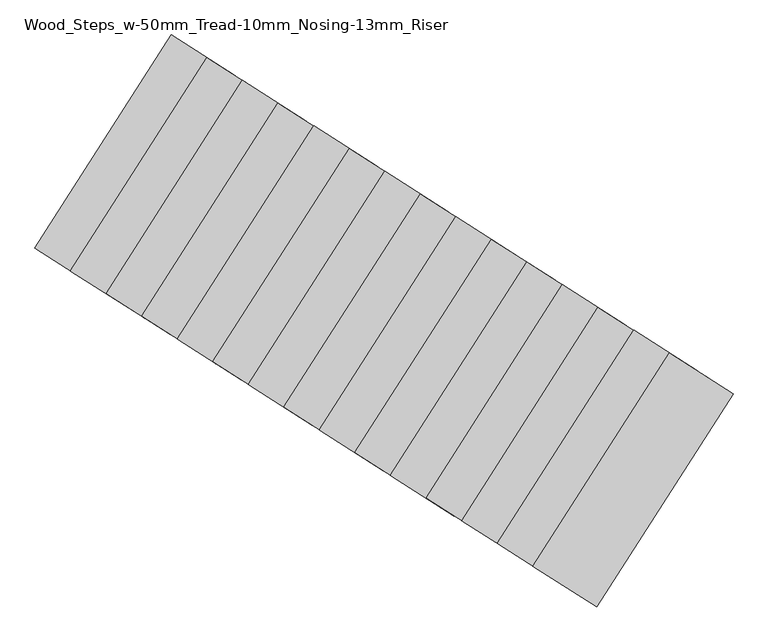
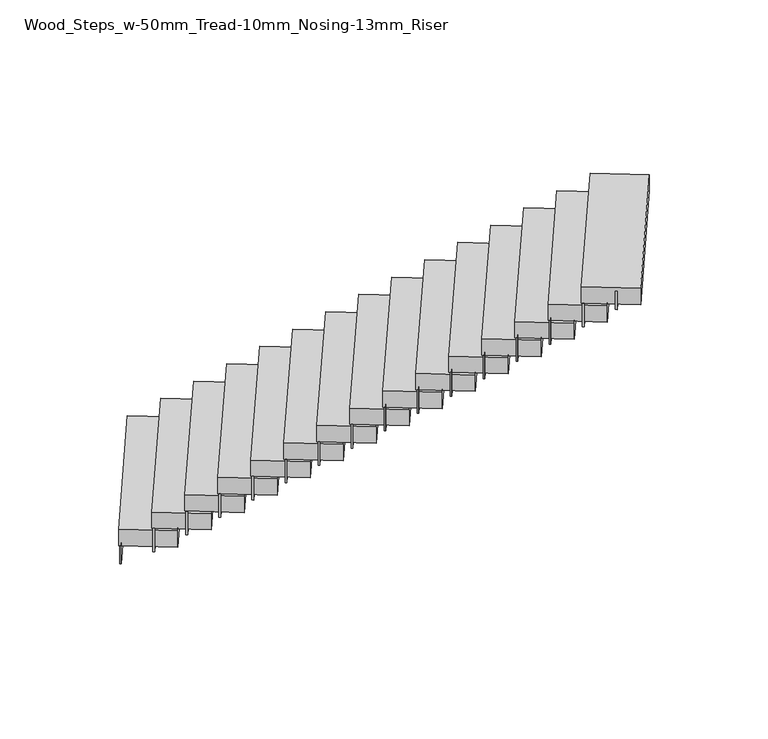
"""IFC4 building model written with IfcOpenShell, lengths in millimetres: stair flight geometry, Wood_Steps_w-50mm_Tread-10mm_Nosing-13mm_Riser."""

from ifc_helpers import new_model, si_unit, frame, origin, place, context, project, spatial, polyline, outline, extrude, source, transform, mapped, element, save


def wood_steps_w_50mm_tread_10mm_nosing_13mm_riser_ad3dbc8e(model_context):
    return source(origin(), model_context, "Body", "SweptSolid", [
        extrude(outline(polyline([(12557.490863, 9528.0175239), (12546.9595366, 9534.7511086), (13354.9896976, 10798.5102861), (13365.5210241, 10791.7767014), (12557.490863, 9528.0175239)])), frame((0.0, 0.0, 6300.0), z_axis=(0.0, 0.0, 1.0), x_axis=(1.0, 0.0, 0.0)), (0.0, 0.0, 1.0), 167.7419355),
        extrude(outline(polyline([(12768.1173926, 9393.3458304), (12757.5860661, 9400.079415), (13565.6162272, 10663.8385926), (13576.1475537, 10657.1050079), (12768.1173926, 9393.3458304)])), frame((0.0, 0.0, 6417.7419355), z_axis=(0.0, 0.0, 1.0), x_axis=(1.0, 0.0, 0.0)), (0.0, 0.0, 1.0), 217.7419355),
        extrude(outline(polyline([(12978.7439222, 9258.6741369), (12968.2125957, 9265.4077215), (13776.2427568, 10529.1668991), (13786.7740833, 10522.4333144), (12978.7439222, 9258.6741369)])), frame((0.0, 0.0, 6585.483871), z_axis=(0.0, 0.0, 1.0), x_axis=(1.0, 0.0, 0.0)), (0.0, 0.0, 1.0), 217.7419355),
        extrude(outline(polyline([(13189.3704518, 9124.0024433), (13178.8391253, 9130.736028), (13986.8692864, 10394.4952056), (13997.4006129, 10387.7616209), (13189.3704518, 9124.0024433)])), frame((0.0, 0.0, 6753.2258065), z_axis=(0.0, 0.0, 1.0), x_axis=(1.0, 0.0, 0.0)), (0.0, 0.0, 1.0), 217.7419355),
        extrude(outline(polyline([(13399.9969814, 8989.3307498), (13389.4656549, 8996.0643345), (14197.495816, 10259.823512), (14208.0271425, 10253.0899274), (13399.9969814, 8989.3307498)])), frame((0.0, 0.0, 6920.9677419), z_axis=(0.0, 0.0, 1.0), x_axis=(1.0, 0.0, 0.0)), (0.0, 0.0, 1.0), 217.7419355),
        extrude(outline(polyline([(13610.623511, 8854.6590563), (13600.0921845, 8861.392641), (14408.1223456, 10125.1518185), (14418.653672, 10118.4182339), (13610.623511, 8854.6590563)])), frame((0.0, 0.0, 7088.7096774), z_axis=(0.0, 0.0, 1.0), x_axis=(1.0, 0.0, 0.0)), (0.0, 0.0, 1.0), 217.7419355),
        extrude(outline(polyline([(13821.2500406, 8719.9873628), (13810.7187141, 8726.7209475), (14618.7488752, 9990.480125), (14629.2802016, 9983.7465403), (13821.2500406, 8719.9873628)])), frame((0.0, 0.0, 7256.4516129), z_axis=(0.0, 0.0, 1.0), x_axis=(1.0, 0.0, 0.0)), (0.0, 0.0, 1.0), 217.7419355),
        extrude(outline(polyline([(14031.8765702, 8585.3156693), (14021.3452437, 8592.049254), (14829.3754047, 9855.8084315), (14839.9067312, 9849.0748468), (14031.8765702, 8585.3156693)])), frame((0.0, 0.0, 7424.1935484), z_axis=(0.0, 0.0, 1.0), x_axis=(1.0, 0.0, 0.0)), (0.0, 0.0, 1.0), 217.7419355),
        extrude(outline(polyline([(14242.5030997, 8450.6439758), (14231.9717733, 8457.3775605), (15040.0019343, 9721.136738), (15050.5332608, 9714.4031533), (14242.5030997, 8450.6439758)])), frame((0.0, 0.0, 7591.9354839), z_axis=(0.0, 0.0, 1.0), x_axis=(1.0, 0.0, 0.0)), (0.0, 0.0, 1.0), 217.7419355),
        extrude(outline(polyline([(14453.1296293, 8315.9722823), (14442.5983028, 8322.705867), (15250.6284639, 9586.4650445), (15261.1597904, 9579.7314598), (14453.1296293, 8315.9722823)])), frame((0.0, 0.0, 7759.6774194), z_axis=(0.0, 0.0, 1.0), x_axis=(1.0, 0.0, 0.0)), (0.0, 0.0, 1.0), 217.7419355),
        extrude(outline(polyline([(14663.7561589, 8181.3005888), (14653.2248324, 8188.0341734), (15461.2549935, 9451.793351), (15471.78632, 9445.0597663), (14663.7561589, 8181.3005888)])), frame((0.0, 0.0, 7927.4193548), z_axis=(0.0, 0.0, 1.0), x_axis=(1.0, 0.0, 0.0)), (0.0, 0.0, 1.0), 217.7419355),
        extrude(outline(polyline([(14874.3826885, 8046.6288953), (14863.851362, 8053.3624799), (15671.8815231, 9317.1216575), (15682.4128496, 9310.3880728), (14874.3826885, 8046.6288953)])), frame((0.0, 0.0, 8095.1612903), z_axis=(0.0, 0.0, 1.0), x_axis=(1.0, 0.0, 0.0)), (0.0, 0.0, 1.0), 217.7419355),
        extrude(outline(polyline([(15085.0092181, 7911.9572017), (15074.4778916, 7918.6907864), (15882.5080527, 9182.4499639), (15893.0393792, 9175.7163793), (15085.0092181, 7911.9572017)])), frame((0.0, 0.0, 8262.9032258), z_axis=(0.0, 0.0, 1.0), x_axis=(1.0, 0.0, 0.0)), (0.0, 0.0, 1.0), 217.7419355),
        extrude(outline(polyline([(15295.6357477, 7777.2855082), (15285.1044212, 7784.0190929), (16093.1345823, 9047.7782704), (16103.6659088, 9041.0446858), (15295.6357477, 7777.2855082)])), frame((0.0, 0.0, 8430.6451613), z_axis=(0.0, 0.0, 1.0), x_axis=(1.0, 0.0, 0.0)), (0.0, 0.0, 1.0), 217.7419355),
        extrude(outline(polyline([(15506.2622773, 7642.6138147), (15495.7309508, 7649.3473994), (16303.7611119, 8913.1065769), (16314.2924383, 8906.3729922), (15506.2622773, 7642.6138147)])), frame((0.0, 0.0, 8598.3870968), z_axis=(0.0, 0.0, 1.0), x_axis=(1.0, 0.0, 0.0)), (0.0, 0.0, 1.0), 217.7419355),
        extrude(outline(polyline([(15716.8888069, 7507.9421212), (15706.3574804, 7514.6757059), (16514.3876415, 8778.4348834), (16524.9189679, 8771.7012987), (15716.8888069, 7507.9421212)])), frame((0.0, 0.0, 8766.1290323), z_axis=(0.0, 0.0, 1.0), x_axis=(1.0, 0.0, 0.0)), (0.0, 0.0, 1.0), 167.7419355),
        extrude(outline(polyline([(12917.6622286, 9297.728928), (12538.5344754, 9540.1379763), (13346.5646364, 10803.8971538), (13725.6923897, 10561.4881055), (12917.6622286, 9297.728928)])), frame((0.0, 0.0, 6467.7419355), z_axis=(0.0, 0.0, 1.0), x_axis=(1.0, 0.0, 0.0)), (0.0, 0.0, 1.0), 150.0),
        extrude(outline(polyline([(13128.2887582, 9163.0572345), (12749.161005, 9405.4662828), (13557.191166, 10669.2254603), (13936.3189193, 10426.816412), (13128.2887582, 9163.0572345)])), frame((0.0, 0.0, 6635.483871), z_axis=(0.0, 0.0, 1.0), x_axis=(1.0, 0.0, 0.0)), (0.0, 0.0, 1.0), 150.0),
        extrude(outline(polyline([(13338.9152878, 9028.385541), (12959.7875345, 9270.7945893), (13767.8176956, 10534.5537668), (14146.9454489, 10292.1447185), (13338.9152878, 9028.385541)])), frame((0.0, 0.0, 6803.2258065), z_axis=(0.0, 0.0, 1.0), x_axis=(1.0, 0.0, 0.0)), (0.0, 0.0, 1.0), 150.0),
        extrude(outline(polyline([(13549.5418174, 8893.7138474), (13170.4140641, 9136.1228958), (13978.4442252, 10399.8820733), (14357.5719785, 10157.473025), (13549.5418174, 8893.7138474)])), frame((0.0, 0.0, 6970.9677419), z_axis=(0.0, 0.0, 1.0), x_axis=(1.0, 0.0, 0.0)), (0.0, 0.0, 1.0), 150.0),
        extrude(outline(polyline([(13760.168347, 8759.0421539), (13381.0405937, 9001.4512023), (14189.0707548, 10265.2103798), (14568.1985081, 10022.8013315), (13760.168347, 8759.0421539)])), frame((0.0, 0.0, 7138.7096774), z_axis=(0.0, 0.0, 1.0), x_axis=(1.0, 0.0, 0.0)), (0.0, 0.0, 1.0), 150.0),
        extrude(outline(polyline([(13970.7948766, 8624.3704604), (13591.6671233, 8866.7795087), (14399.6972844, 10130.5386863), (14778.8250376, 9888.1296379), (13970.7948766, 8624.3704604)])), frame((0.0, 0.0, 7306.4516129), z_axis=(0.0, 0.0, 1.0), x_axis=(1.0, 0.0, 0.0)), (0.0, 0.0, 1.0), 150.0),
        extrude(outline(polyline([(14181.4214062, 8489.6987669), (13802.2936529, 8732.1078152), (14610.323814, 9995.8669928), (14989.4515672, 9753.4579444), (14181.4214062, 8489.6987669)])), frame((0.0, 0.0, 7474.1935484), z_axis=(0.0, 0.0, 1.0), x_axis=(1.0, 0.0, 0.0)), (0.0, 0.0, 1.0), 150.0),
        extrude(outline(polyline([(14392.0479357, 8355.0270734), (14012.9201825, 8597.4361217), (14820.9503436, 9861.1952992), (15200.0780968, 9618.7862509), (14392.0479357, 8355.0270734)])), frame((0.0, 0.0, 7641.9354839), z_axis=(0.0, 0.0, 1.0), x_axis=(1.0, 0.0, 0.0)), (0.0, 0.0, 1.0), 150.0),
        extrude(outline(polyline([(14602.6744653, 8220.3553799), (14223.5467121, 8462.7644282), (15031.5768732, 9726.5236057), (15410.7046264, 9484.1145574), (14602.6744653, 8220.3553799)])), frame((0.0, 0.0, 7809.6774194), z_axis=(0.0, 0.0, 1.0), x_axis=(1.0, 0.0, 0.0)), (0.0, 0.0, 1.0), 150.0),
        extrude(outline(polyline([(14813.3009949, 8085.6836864), (14434.1732417, 8328.0927347), (15242.2034027, 9591.8519122), (15621.331156, 9349.4428639), (14813.3009949, 8085.6836864)])), frame((0.0, 0.0, 7977.4193548), z_axis=(0.0, 0.0, 1.0), x_axis=(1.0, 0.0, 0.0)), (0.0, 0.0, 1.0), 150.0),
        extrude(outline(polyline([(15023.9275245, 7951.0119929), (14644.7997713, 8193.4210412), (15452.8299323, 9457.1802187), (15831.9576856, 9214.7711704), (15023.9275245, 7951.0119929)])), frame((0.0, 0.0, 8145.1612903), z_axis=(0.0, 0.0, 1.0), x_axis=(1.0, 0.0, 0.0)), (0.0, 0.0, 1.0), 150.0),
        extrude(outline(polyline([(15234.5540541, 7816.3402993), (14855.4263008, 8058.7493477), (15663.4564619, 9322.5085252), (16042.5842152, 9080.0994769), (15234.5540541, 7816.3402993)])), frame((0.0, 0.0, 8312.9032258), z_axis=(0.0, 0.0, 1.0), x_axis=(1.0, 0.0, 0.0)), (0.0, 0.0, 1.0), 150.0),
        extrude(outline(polyline([(15445.1805837, 7681.6686058), (15066.0528304, 7924.0776542), (15874.0829915, 9187.8368317), (16253.2107448, 8945.4277834), (15445.1805837, 7681.6686058)])), frame((0.0, 0.0, 8480.6451613), z_axis=(0.0, 0.0, 1.0), x_axis=(1.0, 0.0, 0.0)), (0.0, 0.0, 1.0), 150.0),
        extrude(outline(polyline([(15655.8071133, 7546.9969123), (15276.67936, 7789.4059606), (16084.7095211, 9053.1651382), (16463.8372744, 8810.7560899), (15655.8071133, 7546.9969123)])), frame((0.0, 0.0, 8648.3870968), z_axis=(0.0, 0.0, 1.0), x_axis=(1.0, 0.0, 0.0)), (0.0, 0.0, 1.0), 150.0),
        extrude(outline(polyline([(15866.4336429, 7412.3252188), (15487.3058896, 7654.7342671), (16295.3360507, 8918.4934447), (16674.4638039, 8676.0843963), (15866.4336429, 7412.3252188)])), frame((0.0, 0.0, 8816.1290323), z_axis=(0.0, 0.0, 1.0), x_axis=(1.0, 0.0, 0.0)), (0.0, 0.0, 1.0), 150.0),
    ])


if __name__ == "__main__":
    model = new_model("IFC4")
    model_context = context("Model", 3, world=origin())
    ifc_project = project(units=[si_unit("LENGTHUNIT", "METRE", prefix="MILLI")], contexts=[model_context])
    site = spatial("IfcSite", under=ifc_project)
    building = spatial("IfcBuilding", under=site)
    placement = place(None, origin())
    wood_steps_w_50mm_tread_10mm_nosing_13mm_riser_shape = wood_steps_w_50mm_tread_10mm_nosing_13mm_riser_ad3dbc8e(model_context)
    element("IfcStairFlight", 1, ObjectType="Wood_Steps_w-50mm_Tread-10mm_Nosing-13mm_Riser", at=placement, inside=building, context=model_context, shape_type="MappedRepresentation", body=[
        mapped(wood_steps_w_50mm_tread_10mm_nosing_13mm_riser_shape, transform((0.0, 0.0, 0.0), x_axis=(1.0, 0.0, 0.0), y_axis=(0.0, 1.0, 0.0), z_axis=(0.0, 0.0, 1.0))),
    ])
    save(model, "model.ifc")
